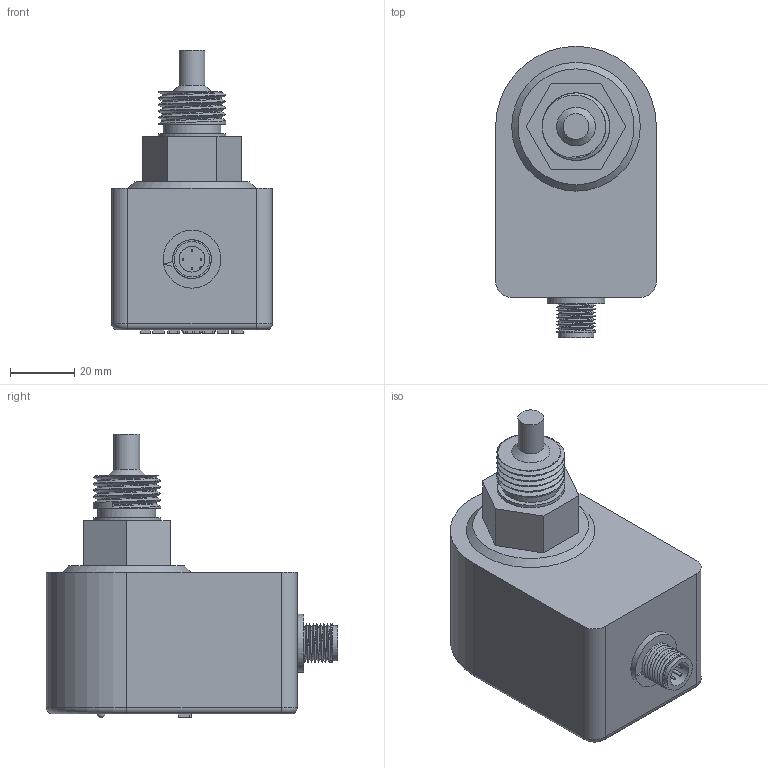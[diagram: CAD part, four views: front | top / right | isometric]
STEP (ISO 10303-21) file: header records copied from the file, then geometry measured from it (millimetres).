
FILE_DESCRIPTION(/* description */ (''),/* implementation_level */ '2;1');
FILE_NAME(/* name */ 'PLSX-1-2G-AN6D-SC.stp',/* time_stamp */ '2022-06-15T11:41:12+08:00',/* author */ (''),/* organization */ (''),/* preprocessor_version */ 'ST-DEVELOPER v16',/* originating_system */ 'SIEMENS PLM Software NX 10.0',/* authorisation */ '');
FILE_SCHEMA (('CONFIG_CONTROL_DESIGN'));
Length unit declared in the file: millimetre
Products named in the file (1): PLSX-G1-2-SC
Bounding box: 50 x 90.5 x 88.25 mm (x, y, z)
Volume: 176008.8 mm3; surface area: 21869.9 mm2
Topology: 1 solids, 1 shells, 159 faces, 392 edges, 260 vertices
Faces by surface type: plane 103, cylinder 23, extrusion 16, sphere 6, bspline 5, cone 3, torus 3
Full cylindrical faces by diameter (mm): 0.6 x4, 3 x1, 8 x2, 11 x1, 18 x2, 21 x1
Entity records: 7572 total; most frequent: CARTESIAN_POINT 4175, ORIENTED_EDGE 726, DIRECTION 530, EDGE_CURVE 363, VERTEX_POINT 251, EDGE_LOOP 204, B_SPLINE_CURVE_WITH_KNOTS 200, AXIS2_PLACEMENT_3D 196
